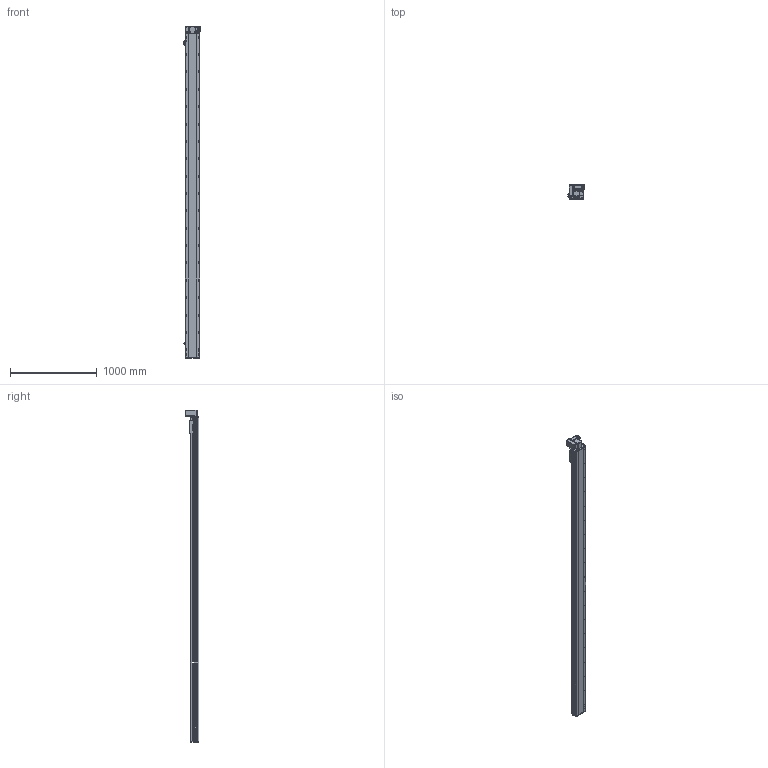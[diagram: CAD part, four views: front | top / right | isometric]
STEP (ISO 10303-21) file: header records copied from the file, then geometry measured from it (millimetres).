
FILE_DESCRIPTION (( 'STEP AP214' ), '1' );
FILE_NAME ('RTB17S-XX-3450-LW-M40-C4.STEP', '2025-12-11T07:24:05', ( '' ), ( '' ), 'SwSTEP 2.0', 'SolidWorks 2018', '' );
FILE_SCHEMA (( 'AUTOMOTIVE_DESIGN' ));
Length unit declared in the file: millimetre
Products named in the file (14): RTB14-L-005P--轴承塑胶压盖^RTB17S-LW-皮带座装配-400W_RTB17S-XX-XX-LW-M40-C4; RTB17S-L-007奻裔^RTB17S-XX-XX-LW-M40-C4; RTB14-L-018P^RTB17S-LW-々湍釱蚾饜-400W_RTB17S-XX-XX-LW-M40-C4; RTB17S-XX-3450-LW-M40-C4; RTB17S-L-001耜醱啣^RTB17S-XX-XX-LW-M40-C4; RTB17-R-011菁釱^RTB17S-XX-XX-LW-M40-C4; RTB17S-LW-々湍釱蚾饜-400W^RTB17S-XX-XX-LW-M40-C4; RTH13-BL-012覜茼え俋离^RTB17S-XX-XX-LW-M40-C4; RTB14-L-008-M20--萇儂啣^RTB17S-LW-々湍釱蚾饜-400W_RTB17S-XX-XX-LW-M40-C4; RTB17S-L-014-T20--々湍釱^RTB17S-LW-々湍釱蚾饜-400W_RTB17S-XX-XX-LW-M40-C4; RTB17S-L-004佪裝蹟譫蟀諉釱^RTB17S-XX-XX-LW-M40-C4; RTB14-L-017P^RTB17S-LW-々湍釱蚾饜-400W_RTB17S-XX-XX-LW-M40-C4; 400W侜督萇儂^RTB17S-XX-XX-LW-M40-C4; OMRON EE-SX672 传感器^RTB17S-XX-XX-LW-M40-C4
Assembly tree (16 placements, depth 3):
  RTB17S-XX-3450-LW-M40-C4
    RTB17-R-011菁釱^RTB17S-XX-XX-LW-M40-C4
    RTB17S-L-007奻裔^RTB17S-XX-XX-LW-M40-C4
    OMRON EE-SX672 传感器^RTB17S-XX-XX-LW-M40-C4  x3
    RTB17S-L-001耜醱啣^RTB17S-XX-XX-LW-M40-C4
    400W侜督萇儂^RTB17S-XX-XX-LW-M40-C4
    RTB17S-L-004佪裝蹟譫蟀諉釱^RTB17S-XX-XX-LW-M40-C4
    RTH13-BL-012覜茼え俋离^RTB17S-XX-XX-LW-M40-C4
    RTB17S-LW-々湍釱蚾饜-400W^RTB17S-XX-XX-LW-M40-C4
      RTB17S-L-014-T20--々湍釱^RTB17S-LW-々湍釱蚾饜-400W_RTB17S-XX-XX-LW-M40-C4
      RTB14-L-005P--轴承塑胶压盖^RTB17S-LW-皮带座装配-400W_RTB17S-XX-XX-LW-M40-C4
      RTB14-L-008-M20--萇儂啣^RTB17S-LW-々湍釱蚾饜-400W_RTB17S-XX-XX-LW-M40-C4
      RTB14-L-017P^RTB17S-LW-々湍釱蚾饜-400W_RTB17S-XX-XX-LW-M40-C4  x2
      RTB14-L-018P^RTB17S-LW-々湍釱蚾饜-400W_RTB17S-XX-XX-LW-M40-C4
Bounding box: 186 x 160.5 x 3822.5 mm (x, y, z)
Volume: 32348639.6 mm3; surface area: 3678627.4 mm2
Topology: 15 solids, 15 shells, 2413 faces, 6789 edges, 4437 vertices
Faces by surface type: plane 1094, cylinder 871, bspline 301, cone 139, torus 8
Entity records: 72617 total; most frequent: CARTESIAN_POINT 20794, ORIENTED_EDGE 10422, DIRECTION 9566, EDGE_CURVE 5211, VERTEX_POINT 3425, AXIS2_PLACEMENT_3D 3355, LINE 2856, VECTOR 2856
